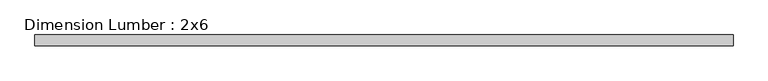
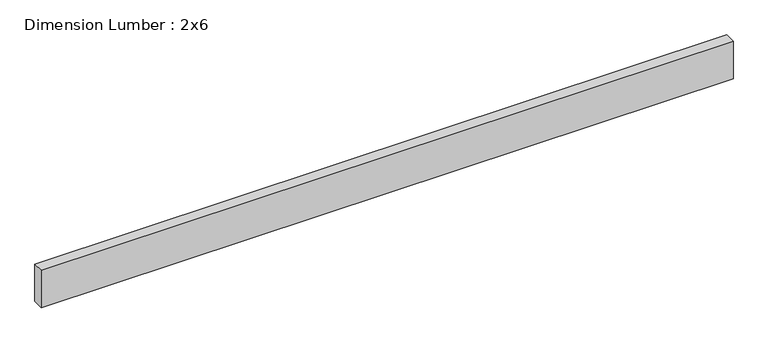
"""IFC4 building model written with IfcOpenShell, lengths in millimetres: beam geometry, Dimension Lumber : 2x6."""

from ifc_helpers import new_model, si_unit, frame, origin, place, context, project, spatial, polyline, outline, extrude, source, transform, mapped, element, save


def dimension_lumber_2x6_0f12f206(model_context):
    return source(origin(), model_context, "Body", "SweptSolid", [
        extrude(outline(polyline([(1211.2625, 19.05), (1211.2625, -19.05), (-1230.3125, -19.05), (-1230.3125, 19.05), (1211.2625, 19.05)])), frame((0.0, 0.0, -69.85), z_axis=(0.0, 0.0, 1.0), x_axis=(1.0, 0.0, 0.0)), (0.0, 0.0, 1.0), 139.7),
    ])


if __name__ == "__main__":
    model = new_model("IFC4")
    model_context = context("Model", 3, world=origin())
    ifc_project = project(units=[si_unit("LENGTHUNIT", "METRE", prefix="MILLI")], contexts=[model_context])
    site = spatial("IfcSite", under=ifc_project)
    building = spatial("IfcBuilding", under=site)
    placement = place(None, origin())
    dimension_lumber_2x6_shape = dimension_lumber_2x6_0f12f206(model_context)
    element("IfcBeam", 1, ObjectType="Dimension Lumber : 2x6", at=placement, inside=building, context=model_context, shape_type="MappedRepresentation", body=[
        mapped(dimension_lumber_2x6_shape, transform((0.0, 0.0, 0.0), x_axis=(1.0, 0.0, 0.0), y_axis=(0.0, 1.0, 0.0), z_axis=(0.0, 0.0, 1.0))),
    ])
    save(model, "model.ifc")
